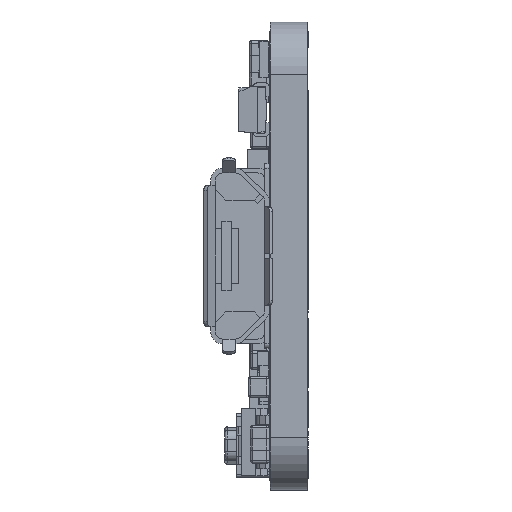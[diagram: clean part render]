
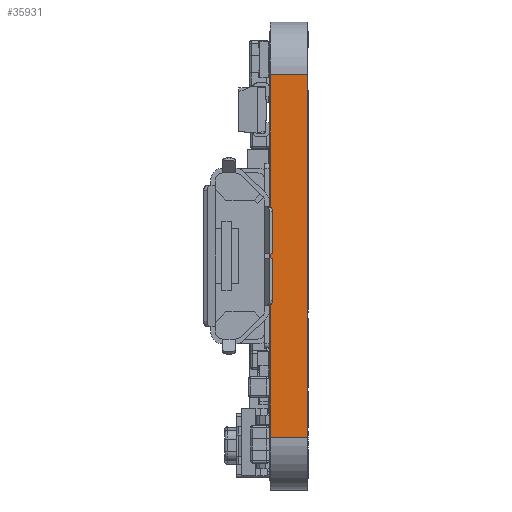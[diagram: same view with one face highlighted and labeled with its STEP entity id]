
A CAD part, left-side view. The second image highlights one B-rep face of the part: STEP entity #35931.
In plain terms, the highlighted planar face has unit normal (-1, 0, 0).
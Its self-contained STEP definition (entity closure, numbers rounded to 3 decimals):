
#10826 = VECTOR ( 'NONE', #12746, 1000. ) ;
#10909 = LINE ( 'NONE', #12753, #10826 ) ;
#11063 = LINE ( 'NONE', #13000, #11105 ) ;
#11073 = LINE ( 'NONE', #12972, #11108 ) ;
#11105 = VECTOR ( 'NONE', #12975, 1000. ) ;
#11108 = VECTOR ( 'NONE', #13011, 1000. ) ;
#11179 = VECTOR ( 'NONE', #12978, 1000. ) ;
#11200 = LINE ( 'NONE', #13006, #11179 ) ;
#12746 = DIRECTION ( 'NONE',  ( 0., 0., 1. ) ) ;
#12753 = CARTESIAN_POINT ( 'NONE',  ( 100., -1.6, -102.25 ) ) ;
#12972 = CARTESIAN_POINT ( 'NONE',  ( 100., -1.6, -117.75 ) ) ;
#12975 = DIRECTION ( 'NONE',  ( 0., 0., 1. ) ) ;
#12978 = DIRECTION ( 'NONE',  ( 0., 1., 0. ) ) ;
#13000 = CARTESIAN_POINT ( 'NONE',  ( 100., 0., -102.25 ) ) ;
#13006 = CARTESIAN_POINT ( 'NONE',  ( 100., -1.6, -102.25 ) ) ;
#13011 = DIRECTION ( 'NONE',  ( 0., 1., 0. ) ) ;
#29317 = VERTEX_POINT ( 'NONE', #219238 ) ;
#29336 = VERTEX_POINT ( 'NONE', #219241 ) ;
#35931 = ADVANCED_FACE ( 'NONE', ( #171737 ), #162017, .T. ) ;
#39391 = DIRECTION ( 'NONE',  ( 0., 0., 1. ) ) ;
#39427 = CARTESIAN_POINT ( 'NONE',  ( 100., 0., -102.25 ) ) ;
#39649 = CARTESIAN_POINT ( 'NONE',  ( 100., 0., -102.25 ) ) ;
#39786 = DIRECTION ( 'NONE',  ( 0., 0., 1. ) ) ;
#40896 = VECTOR ( 'NONE', #39391, 1000. ) ;
#40913 = LINE ( 'NONE', #39427, #40896 ) ;
#40996 = LINE ( 'NONE', #39649, #41006 ) ;
#41006 = VECTOR ( 'NONE', #39786, 1000. ) ;
#55223 = CARTESIAN_POINT ( 'NONE',  ( 100., 0., -106.163 ) ) ;
#55269 = CARTESIAN_POINT ( 'NONE',  ( 100., 0., -113.862 ) ) ;
#55293 = CARTESIAN_POINT ( 'NONE',  ( 100., 0., -117.75 ) ) ;
#55300 = CARTESIAN_POINT ( 'NONE',  ( 100., 0., -102.25 ) ) ;
#57756 = EDGE_CURVE ( 'NONE', #62869, #62810, #40913, .T. ) ;
#57967 = EDGE_CURVE ( 'NONE', #62820, #62862, #40996, .T. ) ;
#62810 = VERTEX_POINT ( 'NONE', #55269 ) ;
#62820 = VERTEX_POINT ( 'NONE', #55223 ) ;
#62862 = VERTEX_POINT ( 'NONE', #55300 ) ;
#62869 = VERTEX_POINT ( 'NONE', #55293 ) ;
#89100 = ORIENTED_EDGE ( 'NONE', *, *, #57967, .F. ) ;
#89103 = ORIENTED_EDGE ( 'NONE', *, *, #98619, .T. ) ;
#89173 = ORIENTED_EDGE ( 'NONE', *, *, #57756, .F. ) ;
#89201 = ORIENTED_EDGE ( 'NONE', *, *, #98609, .F. ) ;
#89204 = ORIENTED_EDGE ( 'NONE', *, *, #98534, .T. ) ;
#89210 = ORIENTED_EDGE ( 'NONE', *, *, #98611, .F. ) ;
#91975 = EDGE_LOOP ( 'NONE', ( #89173, #89210, #89204, #89103, #89100, #89201 ) ) ;
#98534 = EDGE_CURVE ( 'NONE', #29317, #29336, #10909, .T. ) ;
#98609 = EDGE_CURVE ( 'NONE', #62810, #62820, #11063, .T. ) ;
#98611 = EDGE_CURVE ( 'NONE', #29317, #62869, #11073, .T. ) ;
#98619 = EDGE_CURVE ( 'NONE', #29336, #62862, #11200, .T. ) ;
#161992 = DIRECTION ( 'NONE',  ( 0., 0., 1. ) ) ;
#162007 = DIRECTION ( 'NONE',  ( -1., 0., 0. ) ) ;
#162015 = CARTESIAN_POINT ( 'NONE',  ( 100., -1.6, -102.25 ) ) ;
#162017 = PLANE ( 'NONE',  #171857 ) ;
#171737 = FACE_OUTER_BOUND ( 'NONE', #91975, .T. ) ;
#171857 = AXIS2_PLACEMENT_3D ( 'NONE', #162015, #162007, #161992 ) ;
#219238 = CARTESIAN_POINT ( 'NONE',  ( 100., -1.6, -117.75 ) ) ;
#219241 = CARTESIAN_POINT ( 'NONE',  ( 100., -1.6, -102.25 ) ) ;
